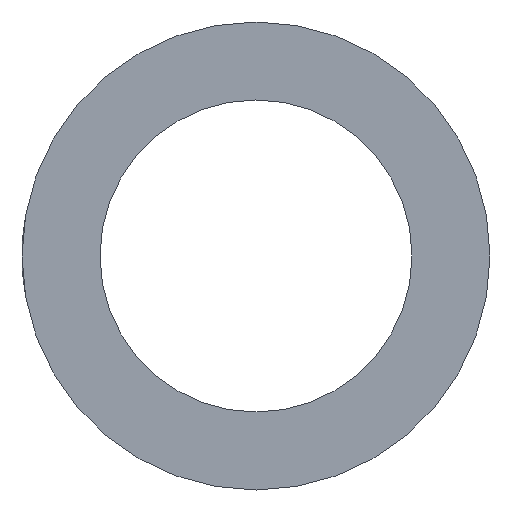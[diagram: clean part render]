
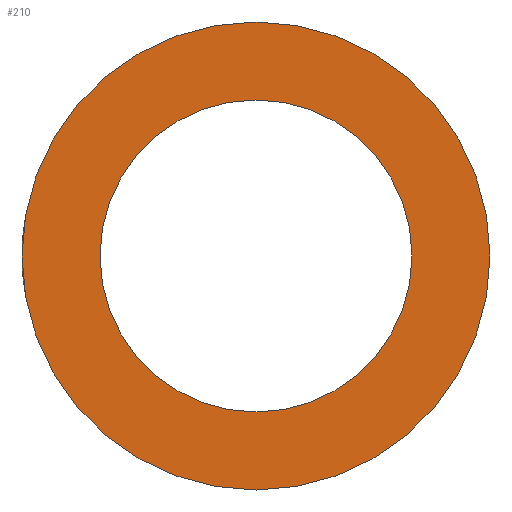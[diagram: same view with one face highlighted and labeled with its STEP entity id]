
A CAD part, left-side view. The second image highlights one B-rep face of the part: STEP entity #210.
In plain terms, the highlighted planar face has unit normal (-1, 0, 0).
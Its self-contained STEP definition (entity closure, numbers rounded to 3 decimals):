
#30 = ORIENTED_EDGE ( 'NONE', *, *, #722, .T. ) ;
#44 = VERTEX_POINT ( 'NONE', #511 ) ;
#64 = CIRCLE ( 'NONE', #65, 16. ) ;
#65 = AXIS2_PLACEMENT_3D ( 'NONE', #66, #67, #68 ) ;
#66 = CARTESIAN_POINT ( 'NONE',  ( 0., 0., 0. ) ) ;
#67 = DIRECTION ( 'NONE',  ( -1., 0., 0. ) ) ;
#68 = DIRECTION ( 'NONE',  ( 0., 0., 1. ) ) ;
#125 = CARTESIAN_POINT ( 'NONE',  ( 0., 0., 24. ) ) ;
#136 = CARTESIAN_POINT ( 'NONE',  ( 0., 0., -24. ) ) ;
#206 = FACE_BOUND ( 'NONE', #837, .T. ) ;
#207 = FACE_OUTER_BOUND ( 'NONE', #712, .T. ) ;
#208 = PLANE ( 'NONE',  #212 ) ;
#210 = ADVANCED_FACE ( 'NONE', ( #206, #207 ), #208, .F. ) ;
#212 = AXIS2_PLACEMENT_3D ( 'NONE', #213, #214, #215 ) ;
#213 = CARTESIAN_POINT ( 'NONE',  ( 0., 0., -24. ) ) ;
#214 = DIRECTION ( 'NONE',  ( 1., 0., 0. ) ) ;
#215 = DIRECTION ( 'NONE',  ( 0., 0., -1. ) ) ;
#229 = ORIENTED_EDGE ( 'NONE', *, *, #819, .T. ) ;
#232 = CIRCLE ( 'NONE', #233, 24. ) ;
#233 = AXIS2_PLACEMENT_3D ( 'NONE', #234, #235, #236 ) ;
#234 = CARTESIAN_POINT ( 'NONE',  ( 0., 0., 0. ) ) ;
#235 = DIRECTION ( 'NONE',  ( -1., 0., 0. ) ) ;
#236 = DIRECTION ( 'NONE',  ( 0., 0., 1. ) ) ;
#280 = CIRCLE ( 'NONE', #285, 24. ) ;
#285 = AXIS2_PLACEMENT_3D ( 'NONE', #286, #287, #288 ) ;
#286 = CARTESIAN_POINT ( 'NONE',  ( 0., 0., 0. ) ) ;
#287 = DIRECTION ( 'NONE',  ( -1., 0., 0. ) ) ;
#288 = DIRECTION ( 'NONE',  ( 0., 0., 1. ) ) ;
#314 = CIRCLE ( 'NONE', #315, 16. ) ;
#315 = AXIS2_PLACEMENT_3D ( 'NONE', #316, #317, #320 ) ;
#316 = CARTESIAN_POINT ( 'NONE',  ( 0., 0., 0. ) ) ;
#317 = DIRECTION ( 'NONE',  ( -1., 0., 0. ) ) ;
#320 = DIRECTION ( 'NONE',  ( 0., 0., 1. ) ) ;
#337 = CARTESIAN_POINT ( 'NONE',  ( 0., 0., -16. ) ) ;
#354 = VERTEX_POINT ( 'NONE', #337 ) ;
#458 = EDGE_CURVE ( 'NONE', #354, #44, #64, .T. ) ;
#511 = CARTESIAN_POINT ( 'NONE',  ( 0., 0., 16. ) ) ;
#712 = EDGE_LOOP ( 'NONE', ( #229, #30 ) ) ;
#722 = EDGE_CURVE ( 'NONE', #810, #808, #280, .T. ) ;
#734 = ORIENTED_EDGE ( 'NONE', *, *, #458, .F. ) ;
#787 = EDGE_CURVE ( 'NONE', #44, #354, #314, .T. ) ;
#808 = VERTEX_POINT ( 'NONE', #125 ) ;
#810 = VERTEX_POINT ( 'NONE', #136 ) ;
#813 = ORIENTED_EDGE ( 'NONE', *, *, #787, .F. ) ;
#819 = EDGE_CURVE ( 'NONE', #808, #810, #232, .T. ) ;
#837 = EDGE_LOOP ( 'NONE', ( #813, #734 ) ) ;
